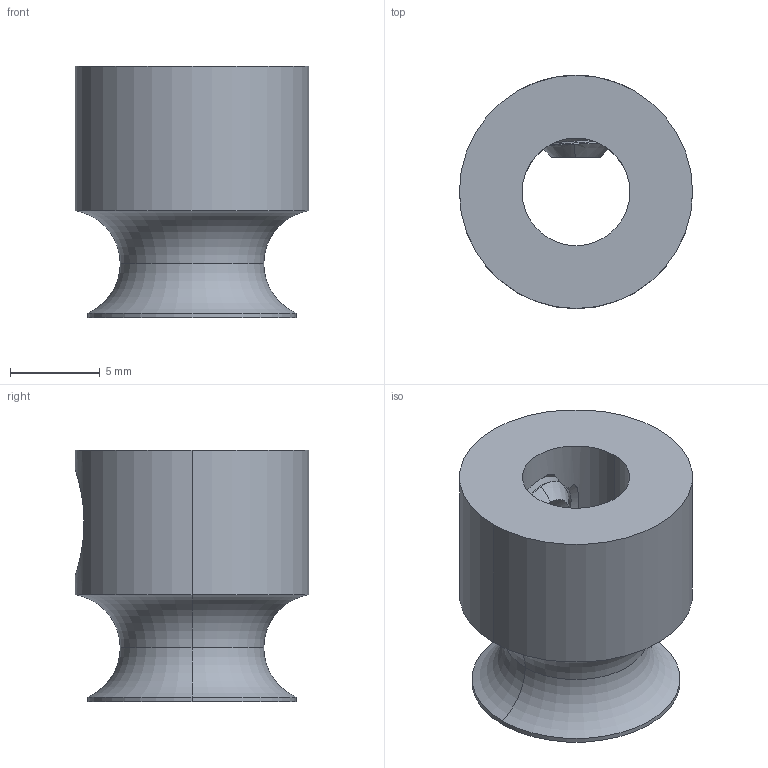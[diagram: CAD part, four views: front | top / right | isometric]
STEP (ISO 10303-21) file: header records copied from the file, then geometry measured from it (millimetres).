
FILE_DESCRIPTION (( 'STEP AP203' ), '1' );
FILE_NAME ('3401-0006-0008 assembly.STEP', '2017-05-03T19:41:07', ( '' ), ( '' ), 'SwSTEP 2.0', 'SolidWorks 2016', '' );
FILE_SCHEMA (( 'CONFIG_CONTROL_DESIGN' ));
Length unit declared in the file: inch
Products named in the file (3): 2806-0005-0004_91390A117; 3401-0006-0008 assembly; 3401-0006-0008
Assembly tree (2 placements, depth 2):
  3401-0006-0008 assembly
    3401-0006-0008
    2806-0005-0004_91390A117
Bounding box: 13 x 13 x 14 mm (x, y, z)
Volume: 1062.9 mm3; surface area: 1181.8 mm2
Topology: 2 solids, 2 shells, 84 faces, 211 edges, 129 vertices
Faces by surface type: cylinder 37, cone 18, plane 15, bspline 10, torus 4
Entity records: 6493 total; most frequent: CARTESIAN_POINT 4477, ORIENTED_EDGE 414, DIRECTION 300, EDGE_CURVE 207, VERTEX_POINT 129, AXIS2_PLACEMENT_3D 121, EDGE_LOOP 90, FACE_OUTER_BOUND 84
